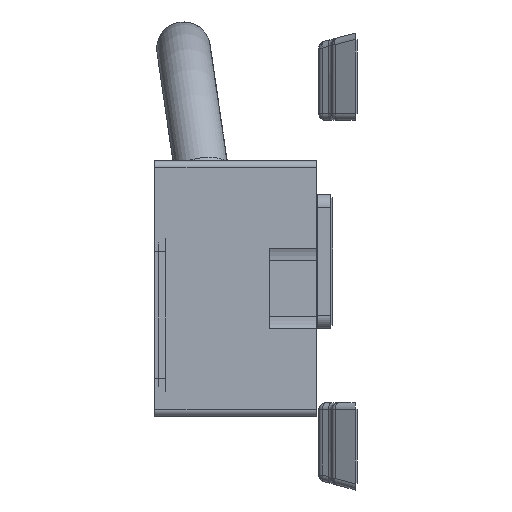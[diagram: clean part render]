
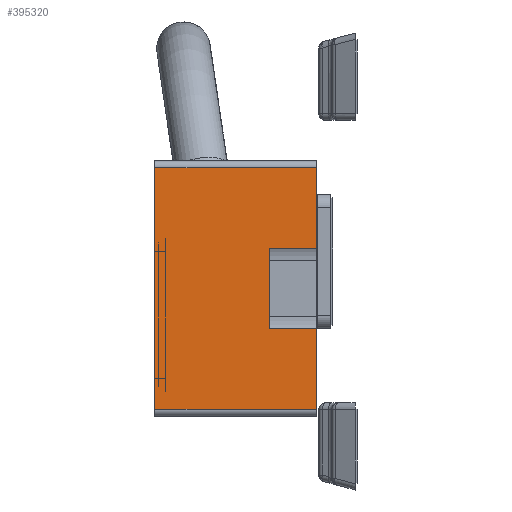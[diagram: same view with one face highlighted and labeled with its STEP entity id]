
A CAD part, left-side view. The second image highlights one B-rep face of the part: STEP entity #395320.
In plain terms, the highlighted planar face has unit normal (-1, 0, 0).
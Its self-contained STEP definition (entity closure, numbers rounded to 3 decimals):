
#389230=CARTESIAN_POINT('',(-46.,18.3,-12.));
#389240=VERTEX_POINT('',#389230);
#389270=CARTESIAN_POINT('',(-46.,0.3,-12.));
#389280=DIRECTION('',(0.,1.,0.));
#389290=VECTOR('',#389280,1.);
#389300=LINE('',#389270,#389290);
#389310=CARTESIAN_POINT('',(-46.,0.3,-12.));
#389320=VERTEX_POINT('',#389310);
#389330=EDGE_CURVE('',#389320,#389240,#389300,.T.);
#392990=CARTESIAN_POINT('',(-46.,18.3,0.)
);
#393000=VERTEX_POINT('',#392990);
#394410=CARTESIAN_POINT('',(-46.,0.3,0.)
);
#394420=VERTEX_POINT('',#394410);
#394450=CARTESIAN_POINT('',(-46.,0.3,0.)
);
#394460=DIRECTION('',(0.,1.,0.));
#394470=VECTOR('',#394460,1.);
#394480=LINE('',#394450,#394470);
#394490=CARTESIAN_POINT('',(-46.,6.328,0.))
;
#394500=VERTEX_POINT('',#394490);
#394510=EDGE_CURVE('',#394420,#394500,#394480,.T.);
#394750=CARTESIAN_POINT('',(-46.,12.272,0.))
;
#394760=VERTEX_POINT('',#394750);
#394790=CARTESIAN_POINT('',(-46.,12.272,0.))
;
#394800=DIRECTION('',(0.,1.,0.));
#394810=VECTOR('',#394800,1.);
#394820=LINE('',#394790,#394810);
#394830=EDGE_CURVE('',#394760,#393000,#394820,.T.);
#394880=CARTESIAN_POINT('',(-46.,17.8,-6.));
#394890=DIRECTION('',(-1.,0.,0.));
#394900=DIRECTION('',(0.,-1.,0.));
#394910=AXIS2_PLACEMENT_3D('',#394880,#394890,#394900);
#394920=PLANE('',#394910);
#394930=CARTESIAN_POINT('',(-46.,12.272,0.)
);
#394940=DIRECTION('',(0.,0.,-1.));
#394950=VECTOR('',#394940,1.);
#394960=LINE('',#394930,#394950);
#394970=CARTESIAN_POINT('',(-46.,12.272,-3.5));
#394980=VERTEX_POINT('',#394970);
#394990=EDGE_CURVE('',#394760,#394980,#394960,.T.);
#395000=ORIENTED_EDGE('',*,*,#394990,.F.);
#395010=CARTESIAN_POINT('',(-46.,12.272,-3.5));
#395020=DIRECTION('',(0.,-1.,0.));
#395030=VECTOR('',#395020,1.);
#395040=LINE('',#395010,#395030);
#395050=CARTESIAN_POINT('',(-46.,6.328,-3.5));
#395060=VERTEX_POINT('',#395050);
#395070=EDGE_CURVE('',#394980,#395060,#395040,.T.);
#395080=ORIENTED_EDGE('',*,*,#395070,.F.);
#395090=CARTESIAN_POINT('',(-46.,6.328,-3.5));
#395100=DIRECTION('',(0.,0.,1.));
#395110=VECTOR('',#395100,1.);
#395120=LINE('',#395090,#395110);
#395130=EDGE_CURVE('',#395060,#394500,#395120,.T.);
#395140=ORIENTED_EDGE('',*,*,#395130,.F.);
#395150=ORIENTED_EDGE('',*,*,#394510,.T.);
#395160=CARTESIAN_POINT('',(-46.,0.3,0.)
);
#395170=DIRECTION('',(0.,0.,-1.));
#395180=VECTOR('',#395170,1.);
#395190=LINE('',#395160,#395180);
#395200=EDGE_CURVE('',#394420,#389320,#395190,.T.);
#395210=ORIENTED_EDGE('',*,*,#395200,.F.);
#395220=ORIENTED_EDGE('',*,*,#389330,.F.);
#395230=CARTESIAN_POINT('',(-46.,18.3,-12.));
#395240=DIRECTION('',(0.,0.,1.));
#395250=VECTOR('',#395240,1.);
#395260=LINE('',#395230,#395250);
#395270=EDGE_CURVE('',#389240,#393000,#395260,.T.);
#395280=ORIENTED_EDGE('',*,*,#395270,.F.);
#395290=ORIENTED_EDGE('',*,*,#394830,.T.);
#395300=EDGE_LOOP('',(#395290,#395280,#395220,#395210,#395150,#395140,
#395080,#395000));
#395310=FACE_OUTER_BOUND('',#395300,.T.);
#395320=ADVANCED_FACE('',(#395310),#394920,.T.);
